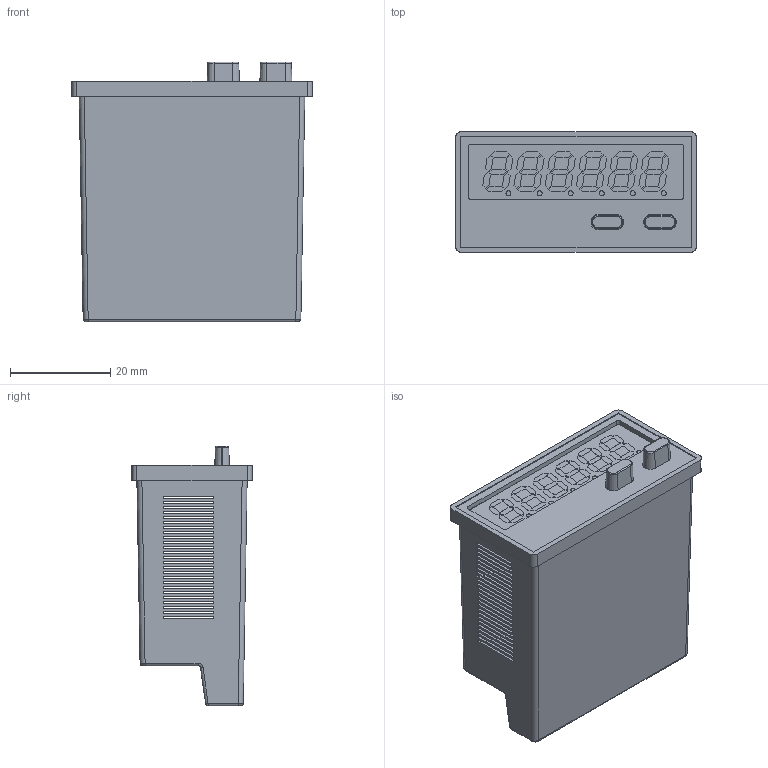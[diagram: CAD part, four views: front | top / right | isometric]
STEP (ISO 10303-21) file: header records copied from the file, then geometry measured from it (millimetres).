
FILE_DESCRIPTION (( 'STEP AP214' ), '1' );
FILE_NAME ('HR020AX.STEP', '2019-02-08T11:22:23', ( '' ), ( '' ), 'SwSTEP 2.0', 'SolidWorks 2019', '' );
FILE_SCHEMA (( 'AUTOMOTIVE_DESIGN' ));
Length unit declared in the file: millimetre
Products named in the file (6): HR020AX_Tastini_Rosso; HR020AX_Base; HR020AX; HR020AX_Display; HR020AX_Tastini_Beige; HR020AX_Fronte
Assembly tree (5 placements, depth 2):
  HR020AX
    HR020AX_Base
    HR020AX_Fronte
    HR020AX_Display
    HR020AX_Tastini_Rosso
    HR020AX_Tastini_Beige
Bounding box: 48 x 24 x 51.8 mm (x, y, z)
Volume: 34835.7 mm3; surface area: 34096.7 mm2
Topology: 5 solids, 5 shells, 530 faces, 1376 edges, 906 vertices
Faces by surface type: plane 454, cylinder 50, bspline 8, cone 8, torus 8, sphere 2
Entity records: 19790 total; most frequent: CARTESIAN_POINT 2992, ORIENTED_EDGE 2752, DIRECTION 2532, EDGE_CURVE 1376, LINE 1240, VECTOR 1240, VERTEX_POINT 906, AXIS2_PLACEMENT_3D 646
